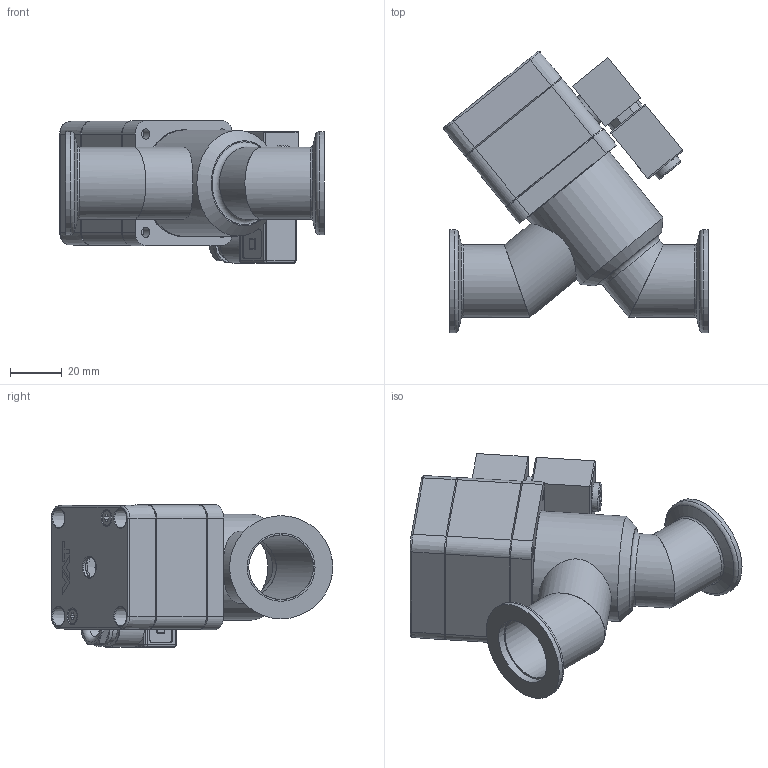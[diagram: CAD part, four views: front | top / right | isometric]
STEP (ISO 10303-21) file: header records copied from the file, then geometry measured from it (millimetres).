
FILE_DESCRIPTION(/* description */ (''),/* implementation_level */ '2;1');
FILE_NAME(/* name */ '1230555674_203.stp',/* time_stamp */ '2013-11-06T07:30:13+01:00',/* author */ (''),/* organization */ (''),/* preprocessor_version */ 'ST-DEVELOPER v11',/* originating_system */ 'SIEMENS PLM Software NX 7.5',/* authorisation */ '');
FILE_SCHEMA (('AP203_CONFIGURATION_CONTROLLED_3D_DESIGN_OF_MECHANICAL_PARTS_AND_ASSEMBLIES_MIM_LF'));
Length unit declared in the file: millimetre
Products named in the file (17): 257238.5; 245689.5; 257237.6; 264931.2; 264932.2; 467882; 437235; 233359; 236204_1.1; 232437.11; 232436.6; 308451.2; 218183.1; 264933.4; N-8501-400.2_MODELNX-ARRAGMNTArrangement 1; 239983.3; 716104
Assembly tree (20 placements, depth 3):
  716104
    218183.1  x4
    308451.2
    239983.3
      236204_1.1  x2
      233359
    232436.6
    232437.11
    N-8501-400.2_MODELNX-ARRAGMNTArrangement 1
      437235
      467882
    264933.4
      264932.2
      264931.2
      257237.6
      245689.5
      257238.5
Bounding box: 102.33 x 108.83 x 55.2 mm (x, y, z)
Volume: 101741.9 mm3; surface area: 78145.4 mm2
Topology: 17 solids, 18 shells, 749 faces, 1864 edges, 1210 vertices
Faces by surface type: plane 431, cylinder 170, cone 98, torus 25, bspline 20, sphere 5
Full cylindrical faces by diameter (mm): 1.8 x1, 2 x1, 2.5 x5, 2.8 x1, 3 x7, 4 x8, 4.2 x1, 4.22 x1, 4.3 x4, 4.4 x1, 5 x4, 5.1 x1, 5.5 x1, 5.6 x2, 6 x1, 7 x4, 7.4 x2, 7.6 x1, 7.9 x1, 7.975 x3, 8 x2, 8.012 x2, 9.201 x1, 9.578 x1, 10.2 x1, 11.2 x1, 11.3 x1, 11.4 x1, 11.5 x1, 12.5 x2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
Entity records: 25469 total; most frequent: CARTESIAN_POINT 4833, DIRECTION 3332, ORIENTED_EDGE 3060, EDGE_CURVE 1530, AXIS2_PLACEMENT_3D 1208, VERTEX_POINT 1092, EDGE_LOOP 970, LINE 916
